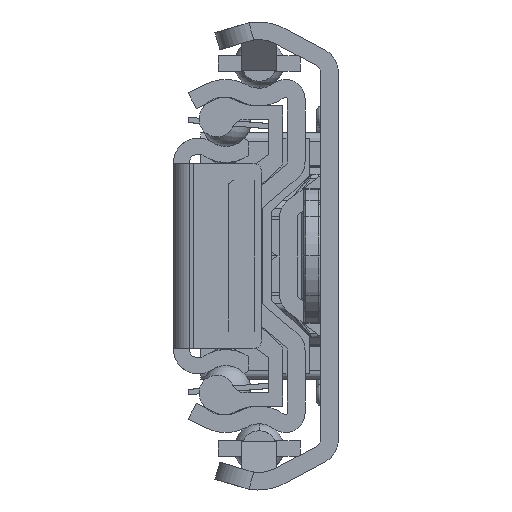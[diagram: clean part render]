
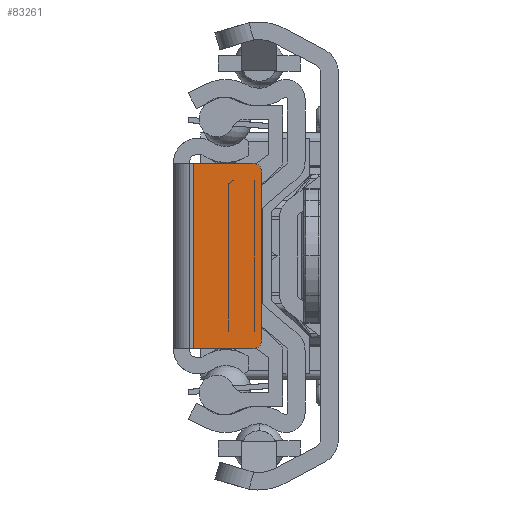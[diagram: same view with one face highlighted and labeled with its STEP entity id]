
A CAD part, left-side view. The second image highlights one B-rep face of the part: STEP entity #83261.
In plain terms, the highlighted planar face has unit normal (-1, 0, 0).
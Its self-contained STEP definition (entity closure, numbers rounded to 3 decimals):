
#77359=DIRECTION('',(0.,-1.,0.));
#77360=VECTOR('',#77359,6.7);
#77361=CARTESIAN_POINT('',(0.,-2.3,10.5));
#77362=LINE('',#77361,#77360);
#78397=DIRECTION('',(0.,-1.,0.));
#78398=VECTOR('',#78397,6.7);
#78399=CARTESIAN_POINT('',(0.,-2.3,-10.5));
#78400=LINE('',#78399,#78398);
#78401=CARTESIAN_POINT('',(0.,-9.,9.5));
#78402=DIRECTION('',(-1.,0.,0.));
#78403=DIRECTION('',(0.,-1.,0.));
#78404=AXIS2_PLACEMENT_3D('',#78401,#78402,#78403);
#78406=CARTESIAN_POINT('',(0.,-9.,-9.5));
#78407=DIRECTION('',(-1.,0.,0.));
#78408=DIRECTION('',(0.,0.,-1.));
#78409=AXIS2_PLACEMENT_3D('',#78406,#78407,#78408);
#78411=DIRECTION('',(0.,0.,1.));
#78412=VECTOR('',#78411,21.);
#78413=CARTESIAN_POINT('',(0.,-2.3,-10.5));
#78414=LINE('',#78413,#78412);
#78423=DIRECTION('',(0.,0.,1.));
#78424=VECTOR('',#78423,19.);
#78425=CARTESIAN_POINT('',(0.,-10.,-9.5));
#78426=LINE('',#78425,#78424);
#81323=CARTESIAN_POINT('',(0.,-2.3,-10.5));
#81324=CARTESIAN_POINT('',(0.,-2.3,10.5));
#81325=VERTEX_POINT('',#81323);
#81326=VERTEX_POINT('',#81324);
#81348=CARTESIAN_POINT('',(0.,-10.,9.5));
#81349=VERTEX_POINT('',#81348);
#81350=CARTESIAN_POINT('',(0.,-9.,10.5));
#81351=VERTEX_POINT('',#81350);
#81352=CARTESIAN_POINT('',(0.,-9.,-10.5));
#81353=CARTESIAN_POINT('',(0.,-10.,-9.5));
#81354=VERTEX_POINT('',#81352);
#81355=VERTEX_POINT('',#81353);
#83246=CARTESIAN_POINT('',(0.,-2.3,-10.5));
#83247=DIRECTION('',(-1.,0.,0.));
#83248=DIRECTION('',(0.,-1.,0.));
#83249=AXIS2_PLACEMENT_3D('',#83246,#83247,#83248);
#83250=PLANE('',#83249);
#83251=ORIENTED_EDGE('',*,*,#82358,.F.);
#83253=ORIENTED_EDGE('',*,*,#83252,.F.);
#83254=ORIENTED_EDGE('',*,*,#83237,.F.);
#83255=ORIENTED_EDGE('',*,*,#83227,.F.);
#83257=ORIENTED_EDGE('',*,*,#83256,.T.);
#83258=ORIENTED_EDGE('',*,*,#82335,.T.);
#83259=EDGE_LOOP('',(#83251,#83253,#83254,#83255,#83257,#83258));
#83260=FACE_OUTER_BOUND('',#83259,.F.);
#78405=CIRCLE('',#78404,1.);
#78410=CIRCLE('',#78409,1.);
#82335=EDGE_CURVE('',#81326,#81351,#77362,.T.);
#82358=EDGE_CURVE('',#81349,#81351,#78405,.T.);
#83227=EDGE_CURVE('',#81325,#81354,#78400,.T.);
#83237=EDGE_CURVE('',#81354,#81355,#78410,.T.);
#83252=EDGE_CURVE('',#81355,#81349,#78426,.T.);
#83256=EDGE_CURVE('',#81325,#81326,#78414,.T.);
#83261=ADVANCED_FACE('',(#83260),#83250,.T.);
